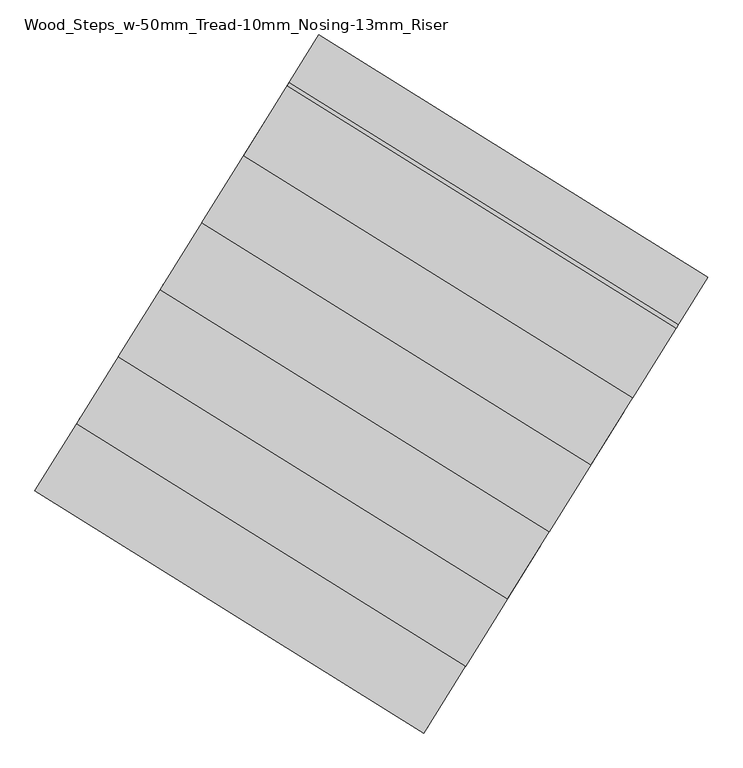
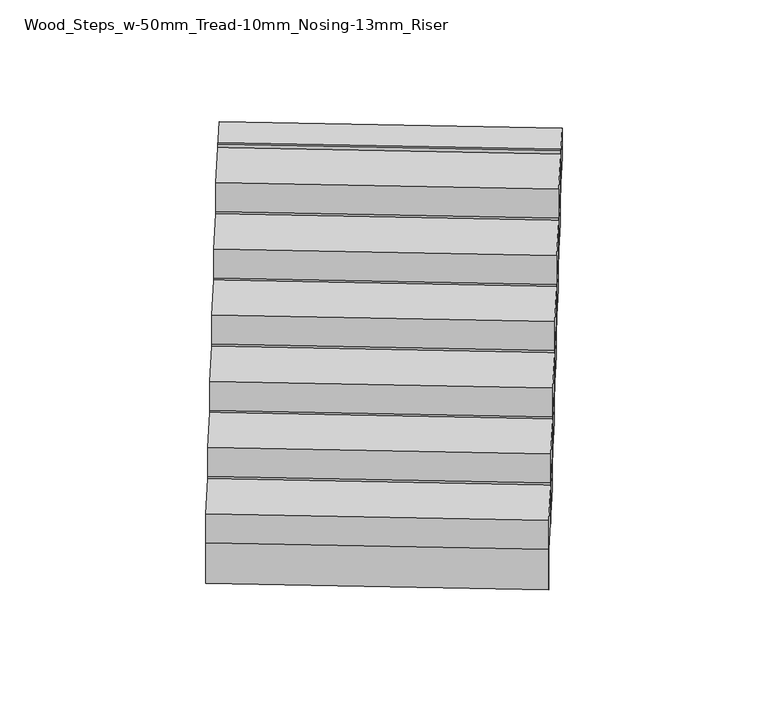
"""IFC4 building model written with IfcOpenShell, lengths in millimetres: stair flight geometry, Wood_Steps_w-50mm_Tread-10mm_Nosing-13mm_Riser."""

import ifcopenshell
import ifcopenshell.guid

model = None  # the IFC model being written
_history = None  # IfcOwnerHistory: only IFC2X3 demands one
_inside = {}  # id of a spatial element -> (the spatial element, [elements in it])
_under = {}  # id of a project, library or spatial element -> (it, [spatial elements below it])
_declared = {}  # id of a project -> (the project, [libraries it declares])
_typed = {}  # id of a type object -> (the type object, [elements of that type])
_made_of = {}  # id of a material, layer set ... -> (it, [elements and type objects made of it])


def new_model(schema):
    """Start an empty IFC model of exactly this schema.

    Asked for "IFC4X3", IfcOpenShell would pick the latest addendum, in which some entities
    have other attributes; the version numbers below select the first issue.
    IFC2X3 requires an IfcOwnerHistory on every rooted entity: one is made here for all.
    """
    global model, _history
    if schema == "IFC4X3":
        model = ifcopenshell.file(schema_version=(4, 3, 0, 0))
    else:
        model = ifcopenshell.file(schema=schema)
    _inside.clear()
    _under.clear()
    _declared.clear()
    _typed.clear()
    _made_of.clear()
    _history = None
    if model.schema == "IFC2X3":
        org = make("IfcOrganization", Name="unknown")
        user = make(
            "IfcPersonAndOrganization",
            ThePerson=make("IfcPerson", FamilyName="unknown"),
            TheOrganization=org,
        )
        app = make(
            "IfcApplication",
            ApplicationDeveloper=org,
            Version="unknown",
            ApplicationFullName="unknown",
            ApplicationIdentifier="unknown",
        )
        _history = make(
            "IfcOwnerHistory",
            OwningUser=user,
            OwningApplication=app,
            ChangeAction="ADDED",
            CreationDate=0,
        )
    return model


def make(cls, **values):
    """One entity of the class cls with the attributes given. An attribute that is None is left unset."""
    return model.create_entity(
        cls, **{name: value for name, value in values.items() if value is not None}
    )


def rooted(cls, **values):
    """An entity with a GlobalId (a new one), such as an element, a storey or a relation."""
    return make(cls, GlobalId=ifcopenshell.guid.new(), OwnerHistory=_history, **values)


def si_unit(unit_type, name, prefix=None):
    """IfcSIUnit, for example si_unit("LENGTHUNIT", "METRE", prefix="MILLI")."""
    return make("IfcSIUnit", UnitType=unit_type, Prefix=prefix, Name=name)


def assignment(units):
    """IfcUnitAssignment: the units of a project."""
    return None if units is None else make("IfcUnitAssignment", Units=units)


def point(xyz):
    """IfcCartesianPoint."""
    return None if xyz is None else make("IfcCartesianPoint", Coordinates=xyz)


def direction(xyz):
    """IfcDirection."""
    return None if xyz is None else make("IfcDirection", DirectionRatios=xyz)


def frame(location, z_axis=None, x_axis=None):
    """IfcAxis2Placement3D, a coordinate frame: its origin and axes. An axis left out is left unset."""
    return make(
        "IfcAxis2Placement3D",
        Location=point(location),
        Axis=direction(z_axis),
        RefDirection=direction(x_axis),
    )


def origin():
    """The frame at (0, 0, 0) with its axes left unset."""
    return frame((0.0, 0.0, 0.0))


def origin_with_axes():
    """The frame at (0, 0, 0) with the z axis (0, 0, 1) and the x axis (1, 0, 0) written out."""
    return frame((0.0, 0.0, 0.0), z_axis=(0.0, 0.0, 1.0), x_axis=(1.0, 0.0, 0.0))


def place(relative_to, where):
    """IfcLocalPlacement: puts the frame where relative to a parent placement (None: the world)."""
    return make(
        "IfcLocalPlacement", PlacementRelTo=relative_to, RelativePlacement=where
    )


def context(
    kind, dimensions, precision=None, world=None, true_north=None, identifier=None
):
    """IfcGeometricRepresentationContext, for example the 3D "Model" context."""
    return make(
        "IfcGeometricRepresentationContext",
        ContextIdentifier=identifier,
        ContextType=kind,
        CoordinateSpaceDimension=dimensions,
        Precision=precision,
        WorldCoordinateSystem=world,
        TrueNorth=true_north,
    )


def project(units=None, contexts=None):
    """IfcProject with its units and contexts."""
    return rooted(
        "IfcProject",
        Name="project",
        RepresentationContexts=contexts,
        UnitsInContext=assignment(units),
    )


def spatial(cls, under=None, at=None, **own):
    """A site, building, storey or space (cls), placed at a placement, below another one or the project."""
    s = rooted(cls, ObjectPlacement=at, **own)
    if under is not None:
        _under.setdefault(under.id(), (under, []))[1].append(s)
    return s


def polyline(points):
    """IfcPolyline through the points."""
    return make("IfcPolyline", Points=[point(p) for p in points])


def outline(outer, holes=None, kind="AREA"):
    """IfcArbitraryClosedProfileDef: a profile drawn as a closed curve; with holes, ...WithVoids."""
    if holes is None:
        return make("IfcArbitraryClosedProfileDef", ProfileType=kind, OuterCurve=outer)
    return make(
        "IfcArbitraryProfileDefWithVoids",
        ProfileType=kind,
        OuterCurve=outer,
        InnerCurves=holes,
    )


def extrude(swept, where, along, depth):
    """IfcExtrudedAreaSolid: the profile swept, set in the frame where, extruded along a direction by depth."""
    return make(
        "IfcExtrudedAreaSolid",
        SweptArea=swept,
        Position=where,
        ExtrudedDirection=direction(along),
        Depth=depth,
    )


def shape(context_of_items, identifier, shape_type, items):
    """IfcShapeRepresentation: the items that make up one representation, for example the "Body"."""
    return make(
        "IfcShapeRepresentation",
        ContextOfItems=context_of_items,
        RepresentationIdentifier=identifier,
        RepresentationType=shape_type,
        Items=items,
    )


def source(mapping_origin, context_of_items, identifier, shape_type, items):
    """IfcRepresentationMap: a shape defined once, which mapped items show again and again."""
    return make(
        "IfcRepresentationMap",
        MappingOrigin=mapping_origin,
        MappedRepresentation=shape(context_of_items, identifier, shape_type, items),
    )


def transform(
    local_origin,
    x_axis=None,
    y_axis=None,
    z_axis=None,
    scale=None,
    scale2=None,
    scale3=None,
    uniform=True,
):
    """IfcCartesianTransformationOperator3D, or its non-uniform kind. x_axis, y_axis, z_axis: its Axis1, 2, 3."""
    if uniform:
        return make(
            "IfcCartesianTransformationOperator3D",
            Axis1=direction(x_axis),
            Axis2=direction(y_axis),
            LocalOrigin=point(local_origin),
            Scale=scale,
            Axis3=direction(z_axis),
        )
    return make(
        "IfcCartesianTransformationOperator3DnonUniform",
        Axis1=direction(x_axis),
        Axis2=direction(y_axis),
        LocalOrigin=point(local_origin),
        Scale=scale,
        Axis3=direction(z_axis),
        Scale2=scale2,
        Scale3=scale3,
    )


def mapped(mapping_source, mapping_target):
    """IfcMappedItem: shows the shape of a source again, moved by a transform."""
    return make(
        "IfcMappedItem", MappingSource=mapping_source, MappingTarget=mapping_target
    )


def made_of(thing, what):
    """Note that an element or type object is made of a material, layer set ...; save() writes the relation."""
    if what is not None:
        _made_of.setdefault(what.id(), (what, []))[1].append(thing)
    return thing


def element(
    cls,
    number,
    at=None,
    inside=None,
    cuts=None,
    type_object=None,
    material=None,
    context=None,
    identifier="Body",
    shape_type=None,
    held_by="IfcProductDefinitionShape",
    body=None,
    shapes=None,
    **own,
):
    """One element of the class cls, such as IfcWall. Its Tag is "e" and its number.

    at: its placement. inside: the storey or other place that contains it. cuts: it is an
    opening in that element (IfcRelVoidsElement). A single representation is given by context,
    identifier, shape_type and body (its items); several are given by shapes. held_by: the class
    of the entity that holds the representations. save() writes the other relations.
    """
    e = rooted(cls, Tag="e%d" % number, ObjectPlacement=at, **own)
    if body is not None:
        shapes = [shape(context, identifier, shape_type, body)]
    if shapes is not None:
        e.Representation = make(held_by, Representations=shapes)
    if inside is not None:
        _inside.setdefault(inside.id(), (inside, []))[1].append(e)
    if cuts is not None:
        rooted(
            "IfcRelVoidsElement", RelatingBuildingElement=cuts, RelatedOpeningElement=e
        )
    if type_object is not None:
        _typed.setdefault(type_object.id(), (type_object, []))[1].append(e)
    return made_of(e, material)


def aggregate(whole, parts):
    """IfcRelAggregates: a whole, such as a stair, and the parts it consists of."""
    return rooted("IfcRelAggregates", RelatingObject=whole, RelatedObjects=parts)


def save(model, path):
    """Write the relations noted so far, then the file.

    IfcRelAggregates (storeys below a building ...), IfcRelContainedInSpatialStructure (elements
    in a storey), IfcRelDefinesByType, IfcRelAssociatesMaterial and IfcRelDeclares: one each for
    every whole, place, type object, material and project.
    """
    for whole, parts in _under.values():
        aggregate(whole, parts)
    for where, things in _inside.values():
        rooted(
            "IfcRelContainedInSpatialStructure",
            RelatedElements=things,
            RelatingStructure=where,
        )
    for kind, things in _typed.values():
        rooted("IfcRelDefinesByType", RelatedObjects=things, RelatingType=kind)
    for what, things in _made_of.values():
        rooted("IfcRelAssociatesMaterial", RelatedObjects=things, RelatingMaterial=what)
    for by, libraries in _declared.values():
        rooted("IfcRelDeclares", RelatingContext=by, RelatedDefinitions=libraries)
    model.write(path)


def wood_steps_w_50mm_tread_10mm_nosing_13mm_riser_5f3a79e2(model_context):
    return source(origin(), model_context, "Body", "SweptSolid", [
        extrude(outline(polyline([(17866.928455, 8068.663157), (17860.3189226, 8058.0535349), (16629.6027602, 8824.7592983), (16636.2122926, 8835.3689204), (17866.928455, 8068.663157)])), frame((0.0, 0.0, -216.6666667), z_axis=(0.0, 0.0, 1.0), x_axis=(1.0, 0.0, 0.0)), (0.0, 0.0, 1.0), 216.6666667),
        extrude(outline(polyline([(17999.1191039, 8280.8555988), (17992.5095714, 8270.2459767), (16761.793409, 9036.9517401), (16768.4029415, 9047.5613622), (17999.1191039, 8280.8555988)])), frame((0.0, 0.0, -50.0), z_axis=(0.0, 0.0, 1.0), x_axis=(1.0, 0.0, 0.0)), (0.0, 0.0, 1.0), 216.6666667),
        extrude(outline(polyline([(18131.3097527, 8493.0480406), (18124.7002203, 8482.4384185), (16893.9840579, 9249.1441819), (16900.5935903, 9259.753804), (18131.3097527, 8493.0480406)])), frame((0.0, 0.0, 116.6666667), z_axis=(0.0, 0.0, 1.0), x_axis=(1.0, 0.0, 0.0)), (0.0, 0.0, 1.0), 216.6666667),
        extrude(outline(polyline([(18263.5004016, 8705.2404824), (18256.8908691, 8694.6308603), (17026.1747067, 9461.3366237), (17032.7842392, 9471.9462458), (18263.5004016, 8705.2404824)])), frame((0.0, 0.0, 283.3333333), z_axis=(0.0, 0.0, 1.0), x_axis=(1.0, 0.0, 0.0)), (0.0, 0.0, 1.0), 216.6666667),
        extrude(outline(polyline([(18395.6910504, 8917.4329242), (18389.081518, 8906.8233021), (17158.3653556, 9673.5290655), (17164.974888, 9684.1386876), (18395.6910504, 8917.4329242)])), frame((0.0, 0.0, 450.0), z_axis=(0.0, 0.0, 1.0), x_axis=(1.0, 0.0, 0.0)), (0.0, 0.0, 1.0), 216.6666667),
        extrude(outline(polyline([(18527.8816993, 9129.625366), (18521.2721669, 9119.0157439), (17290.5560045, 9885.7215073), (17297.1655369, 9896.3311294), (18527.8816993, 9129.625366)])), frame((0.0, 0.0, 616.6666667), z_axis=(0.0, 0.0, 1.0), x_axis=(1.0, 0.0, 0.0)), (0.0, 0.0, 1.0), 216.6666667),
        extrude(outline(polyline([(18660.0723482, 9341.8178078), (18653.4628157, 9331.2081857), (17422.7466533, 10097.9139491), (17429.3561858, 10108.5235712), (18660.0723482, 9341.8178078)])), frame((0.0, 0.0, 783.3333333), z_axis=(0.0, 0.0, 1.0), x_axis=(1.0, 0.0, 0.0)), (0.0, 0.0, 1.0), 216.6666667),
        extrude(outline(polyline([(18092.9744645, 8431.5122325), (17855.0312966, 8049.5658373), (16624.3151342, 8816.2716006), (16862.2583022, 9198.2179959), (18092.9744645, 8431.5122325)])), origin_with_axes(), (0.0, 0.0, 1.0), 150.0),
        extrude(outline(polyline([(18225.1651134, 8643.7046743), (17987.2219455, 8261.758279), (16756.5057831, 9028.4640424), (16994.448951, 9410.4104377), (18225.1651134, 8643.7046743)])), frame((0.0, 0.0, 166.6666667), z_axis=(0.0, 0.0, 1.0), x_axis=(1.0, 0.0, 0.0)), (0.0, 0.0, 1.0), 150.0),
        extrude(outline(polyline([(18357.3557623, 8855.8971161), (18119.4125943, 8473.9507208), (16888.6964319, 9240.6564842), (17126.6395999, 9622.6028795), (18357.3557623, 8855.8971161)])), frame((0.0, 0.0, 333.3333333), z_axis=(0.0, 0.0, 1.0), x_axis=(1.0, 0.0, 0.0)), (0.0, 0.0, 1.0), 150.0),
        extrude(outline(polyline([(18489.5464111, 9068.0895579), (18251.6032432, 8686.1431626), (17020.8870808, 9452.848926), (17258.8302487, 9834.7953212), (18489.5464111, 9068.0895579)])), frame((0.0, 0.0, 500.0), z_axis=(0.0, 0.0, 1.0), x_axis=(1.0, 0.0, 0.0)), (0.0, 0.0, 1.0), 150.0),
        extrude(outline(polyline([(18621.73706, 9280.2819997), (18383.793892, 8898.3356044), (17153.0777296, 9665.0413678), (17391.0208976, 10046.987763), (18621.73706, 9280.2819997)])), frame((0.0, 0.0, 666.6666667), z_axis=(0.0, 0.0, 1.0), x_axis=(1.0, 0.0, 0.0)), (0.0, 0.0, 1.0), 150.0),
        extrude(outline(polyline([(18753.9277088, 9492.4744414), (18515.9845409, 9110.5280462), (17285.2683785, 9877.2338096), (17523.2115464, 10259.1802048), (18753.9277088, 9492.4744414)])), frame((0.0, 0.0, 833.3333333), z_axis=(0.0, 0.0, 1.0), x_axis=(1.0, 0.0, 0.0)), (0.0, 0.0, 1.0), 150.0),
    ])


if __name__ == "__main__":
    model = new_model("IFC4")
    model_context = context("Model", 3, world=origin())
    ifc_project = project(units=[si_unit("LENGTHUNIT", "METRE", prefix="MILLI")], contexts=[model_context])
    site = spatial("IfcSite", under=ifc_project)
    building = spatial("IfcBuilding", under=site)
    placement = place(None, origin())
    wood_steps_w_50mm_tread_10mm_nosing_13mm_riser_shape = wood_steps_w_50mm_tread_10mm_nosing_13mm_riser_5f3a79e2(model_context)
    element("IfcStairFlight", 1, ObjectType="Wood_Steps_w-50mm_Tread-10mm_Nosing-13mm_Riser", at=placement, inside=building, context=model_context, shape_type="MappedRepresentation", body=[
        mapped(wood_steps_w_50mm_tread_10mm_nosing_13mm_riser_shape, transform((0.0, 0.0, 0.0), x_axis=(1.0, 0.0, 0.0), y_axis=(0.0, 1.0, 0.0), z_axis=(0.0, 0.0, 1.0))),
    ])
    save(model, "model.ifc")
